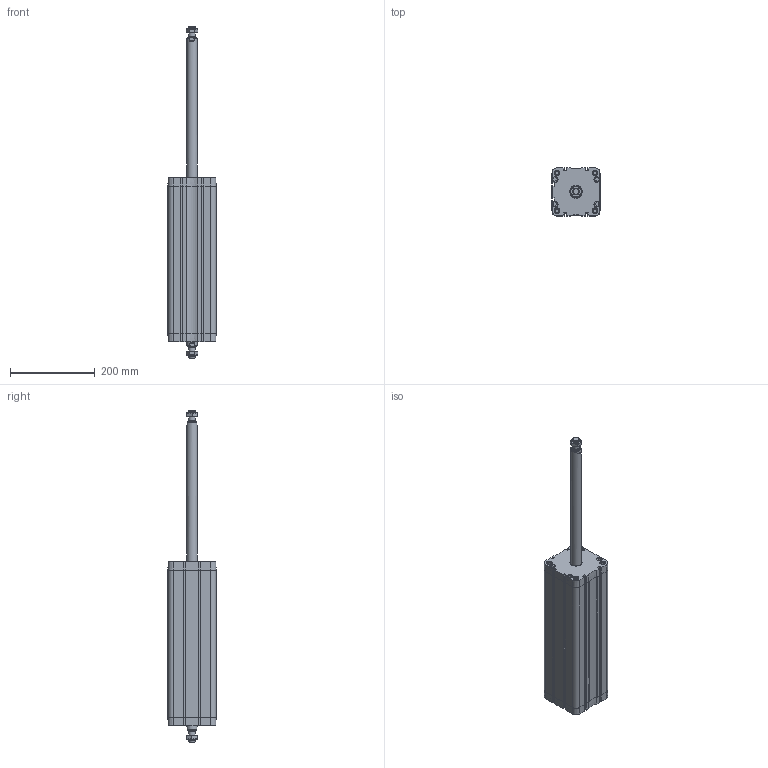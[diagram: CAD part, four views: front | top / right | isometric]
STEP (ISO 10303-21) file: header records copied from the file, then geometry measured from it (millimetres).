
FILE_DESCRIPTION(/* description */ ('Unknown'),/* implementation_level */ '2;1');
FILE_NAME(/* name */ 'ZBF 100_320',/* time_stamp */ '2024-11-20T09:25:46+01:00',/* author */ ('Unknown'),/* organization */ ('Unknown'),/* preprocessor_version */ 'ST-DEVELOPER v16.7',/* originating_system */ 'Solid Edge',/* authorisation */ 'Unknown');
FILE_SCHEMA (('AUTOMOTIVE_DESIGN {1 0 10303 214 3 1 1}'));
Length unit declared in the file: millimetre
Products named in the file (5): ZBF 100_320; Profilrohr; Kolbenstange; Mutter; Kit
Assembly tree (7 placements, depth 2):
  ZBF 100_320
    Profilrohr
    Kolbenstange  x2
    Mutter  x2
    Kit  x2
Bounding box: 113.5 x 113.5 x 783 mm (x, y, z)
Volume: 2607430.3 mm3; surface area: 484565.9 mm2
Topology: 7 solids, 7 shells, 835 faces, 2207 edges, 1452 vertices
Faces by surface type: plane 378, cylinder 233, bspline 114, cone 82, torus 28
Full cylindrical faces by diameter (mm): 8.376 x8, 8.566 x2, 13.1 x8, 13.5 x8, 14 x2, 14.376 x2, 16 x2, 25 x2, 25.6 x2, 26.9 x2, 28 x2, 29.8 x2, 30 x2, 100 x3
Entity records: 17553 total; most frequent: CARTESIAN_POINT 3669, ORIENTED_EDGE 2398, DIRECTION 2244, EDGE_CURVE 1199, VERTEX_POINT 819, AXIS2_PLACEMENT_3D 783, LINE 678, VECTOR 678
